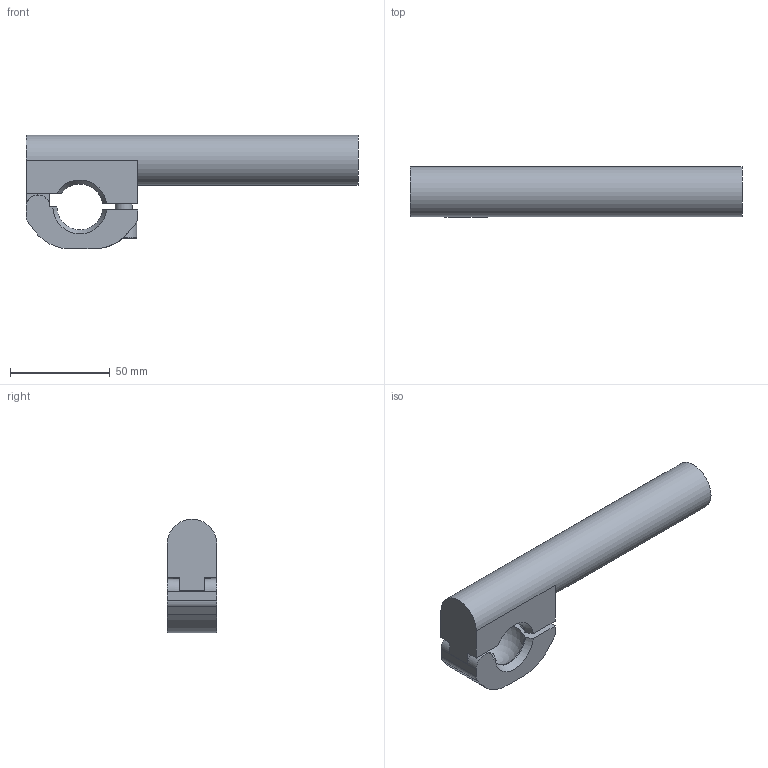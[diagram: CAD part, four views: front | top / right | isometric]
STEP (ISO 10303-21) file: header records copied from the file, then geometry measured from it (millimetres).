
FILE_DESCRIPTION(('STEP AP214'),'1');
FILE_NAME('F-04-12-MUSTERIDATA.stp','2024-07-24T11:24:59',(' '),(' '),'Spatial InterOp 3D',' ',' ');
FILE_SCHEMA(('AUTOMOTIVE_DESIGN { 1 0 10303 214 1 1 1 1 }'));
Length unit declared in the file: metre
Products named in the file (1): 1721823204
Bounding box: 166.5 x 25 x 57 mm (x, y, z)
Volume: 109680.2 mm3; surface area: 21808.1 mm2
Topology: 1 solids, 1 shells, 61 faces, 171 edges, 111 vertices
Faces by surface type: plane 40, cylinder 13, cone 5, sphere 2, torus 1
Full cylindrical faces by diameter (mm): 8.5 x1, 13 x1, 25 x1
Entity records: 2797 total; most frequent: CARTESIAN_POINT 417, DIRECTION 315, ORIENTED_EDGE 310, EDGE_CURVE 155, STYLED_ITEM 134, PRESENTATION_STYLE_ASSIGNMENT 134, COLOUR_RGB 134, AXIS2_PLACEMENT_3D 109
